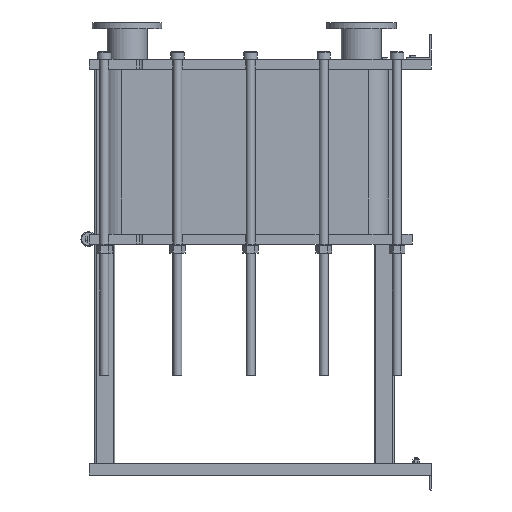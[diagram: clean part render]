
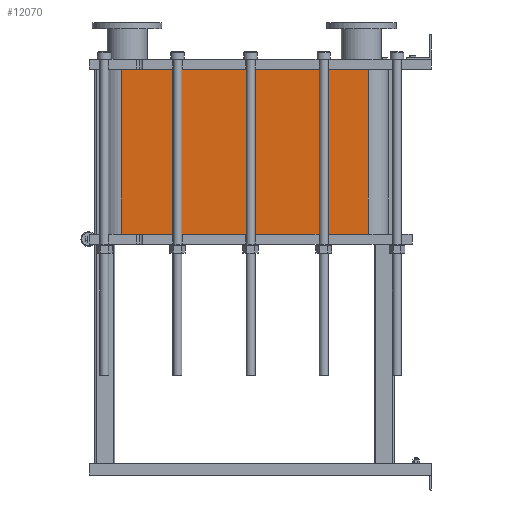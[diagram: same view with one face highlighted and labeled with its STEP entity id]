
A CAD part, left-side view. The second image highlights one B-rep face of the part: STEP entity #12070.
In plain terms, the highlighted planar face has unit normal (-1, 0, 0).
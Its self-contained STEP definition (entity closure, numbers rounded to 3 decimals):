
#1064=LINE('',#21140,#2164);
#1065=LINE('',#21144,#2165);
#1066=LINE('',#21146,#2166);
#1067=LINE('',#21147,#2167);
#2164=VECTOR('',#15790,10.);
#2165=VECTOR('',#15795,10.);
#2166=VECTOR('',#15796,10.);
#2167=VECTOR('',#15797,10.);
#3304=FACE_OUTER_BOUND('',#4091,.T.);
#4091=EDGE_LOOP('',(#9793,#9794,#9795,#9796));
#5677=VERTEX_POINT('',#21137);
#5678=VERTEX_POINT('',#21139);
#5679=VERTEX_POINT('',#21143);
#5680=VERTEX_POINT('',#21145);
#7118=EDGE_CURVE('',#5678,#5677,#1064,.T.);
#7120=EDGE_CURVE('',#5677,#5679,#1065,.T.);
#7121=EDGE_CURVE('',#5680,#5679,#1066,.T.);
#7122=EDGE_CURVE('',#5680,#5678,#1067,.T.);
#9793=ORIENTED_EDGE('',*,*,#7120,.T.);
#9794=ORIENTED_EDGE('',*,*,#7121,.F.);
#9795=ORIENTED_EDGE('',*,*,#7122,.T.);
#9796=ORIENTED_EDGE('',*,*,#7118,.T.);
#11441=PLANE('',#13191);
#12070=ADVANCED_FACE('',(#3304),#11441,.T.);
#13191=AXIS2_PLACEMENT_3D('',#21142,#15793,#15794);
#15790=DIRECTION('',(0.,0.,-1.));
#15793=DIRECTION('center_axis',(-1.,0.,0.));
#15794=DIRECTION('ref_axis',(0.,1.,0.));
#15795=DIRECTION('',(0.,-1.,0.));
#15796=DIRECTION('',(0.,0.,-1.));
#15797=DIRECTION('',(0.,1.,0.));
#21137=CARTESIAN_POINT('',(-248.152,1243.818,-662.4));
#21139=CARTESIAN_POINT('',(-248.152,1243.818,0.));
#21140=CARTESIAN_POINT('',(-248.152,1243.818,0.));
#21142=CARTESIAN_POINT('Origin',(-248.152,251.818,0.));
#21143=CARTESIAN_POINT('',(-248.152,251.818,-662.4));
#21144=CARTESIAN_POINT('',(-248.152,499.818,-662.4));
#21145=CARTESIAN_POINT('',(-248.152,251.818,0.));
#21146=CARTESIAN_POINT('',(-248.152,251.818,0.));
#21147=CARTESIAN_POINT('',(-248.152,251.818,0.));
